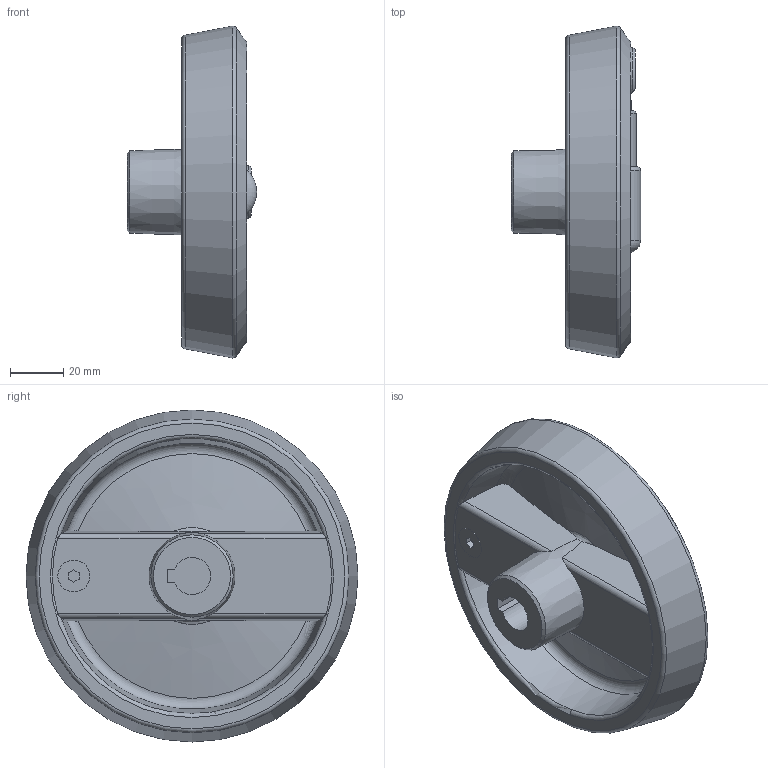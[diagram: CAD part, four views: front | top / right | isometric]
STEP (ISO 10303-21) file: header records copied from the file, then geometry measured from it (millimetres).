
FILE_DESCRIPTION( ( 'STEP AP203' ), '1' );
FILE_NAME( 'C:/Temp/Ganter_Step_05_03_2020/data/1_3/gn_923_7/gn_923_7_k/Handwheel with retractable handle GN 923.7-125-K14-R-SW (unactivated).stp', '2020-03-05T10:40:21', ( 'License CC BY-ND 4.0' ), ( 'CADENAS' ), ' ', 'PARTsolutions', ' ' );
FILE_SCHEMA( ( 'CONFIG_CONTROL_DESIGN' ) );
Length unit declared in the file: millimetre
Products named in the file (3): Handwheel with retractable handle GN 923.7-125-K14-R-SW (unactivated); _Umleggriff-Handrad GN 923.7-125-K14-R-SW-1; _Umleggriff-Handrad GN 923.7-125-K14-R-SW (0)-2
Assembly tree (2 placements, depth 2):
  Handwheel with retractable handle GN 923.7-125-K14-R-SW (unactivated)
    _Umleggriff-Handrad GN 923.7-125-K14-R-SW-1
    _Umleggriff-Handrad GN 923.7-125-K14-R-SW (0)-2
Bounding box: 48.7 x 125 x 125 mm (x, y, z)
Volume: 170921.7 mm3; surface area: 53938.1 mm2
Topology: 2 solids, 2 shells, 111 faces, 268 edges, 169 vertices
Faces by surface type: plane 47, cylinder 26, cone 15, torus 15, bspline 6, sphere 2
Full cylindrical faces by diameter (mm): 4 x2, 6 x1, 8 x1, 12 x1, 15 x1, 18.5 x1, 20 x1, 22 x1, 23 x2
Entity records: 3526 total; most frequent: CARTESIAN_POINT 994, DIRECTION 512, ORIENTED_EDGE 466, EDGE_CURVE 233, AXIS2_PLACEMENT_3D 215, VERTEX_POINT 163, EDGE_LOOP 149, FACE_OUTER_BOUND 129
